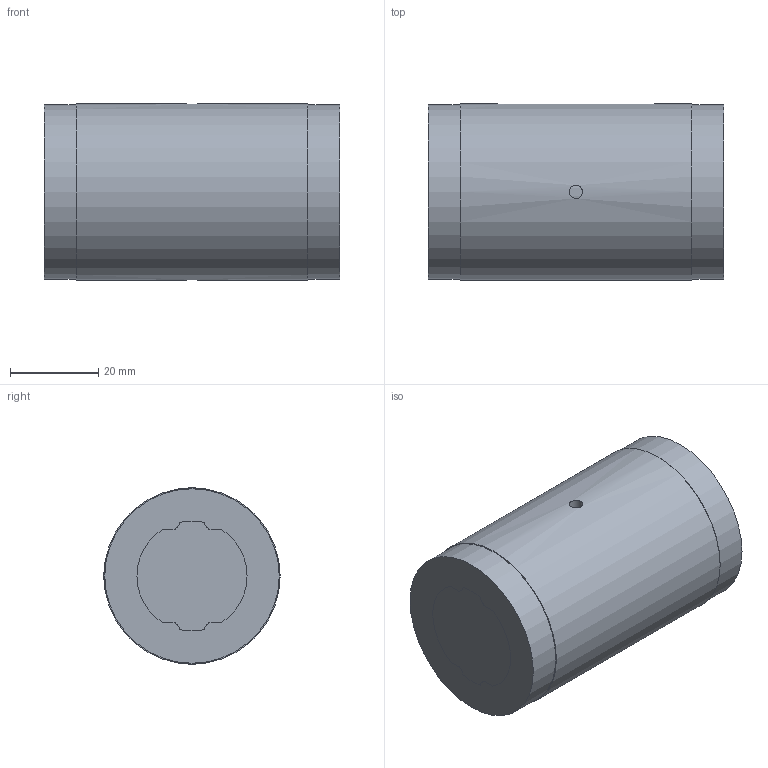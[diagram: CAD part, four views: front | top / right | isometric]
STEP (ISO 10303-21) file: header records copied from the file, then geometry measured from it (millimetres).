
FILE_DESCRIPTION(/* description */ ('STEP AP203'),/* implementation_level */ '2;1');
FILE_NAME(/* name */ 'LT25X+67L(00)',/* time_stamp */ '2024-05-28T07:09:52+02:00',/* author */ ('License CC BY-ND 4.0'),/* organization */ ('CADENAS'),/* preprocessor_version */ 'ST-DEVELOPER v19.3',/* originating_system */ 'PARTsolutions',/* authorisation */ ' ');
FILE_SCHEMA (('CONFIG_CONTROL_DESIGN'));
Length unit declared in the file: millimetre
Products named in the file (3): LT25X+67L(00); 1LT25X 67Shaft; 1LT25X Cylindar
Assembly tree (2 placements, depth 2):
  LT25X+67L(00)
    1LT25X 67Shaft
    1LT25X Cylindar
Bounding box: 67 x 40 x 40 mm (x, y, z)
Volume: 83381.7 mm3; surface area: 22042.1 mm2
Topology: 2 solids, 2 shells, 64 faces, 173 edges, 115 vertices
Faces by surface type: cylinder 39, plane 25
Full cylindrical faces by diameter (mm): 3 x2, 39.6 x2, 40 x1
Entity records: 2129 total; most frequent: CARTESIAN_POINT 399, DIRECTION 366, ORIENTED_EDGE 332, EDGE_CURVE 166, AXIS2_PLACEMENT_3D 139, VERTEX_POINT 114, LINE 88, VECTOR 88
